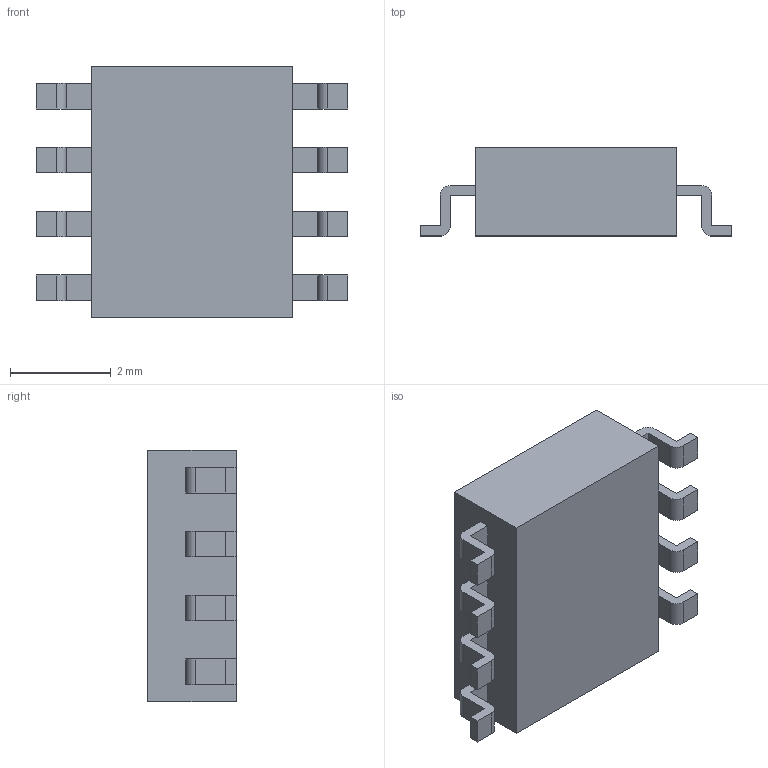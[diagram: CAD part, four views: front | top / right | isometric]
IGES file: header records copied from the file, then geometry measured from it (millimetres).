
Start section:  PTC IGES file: soic-8_prt.igs
Global section: file name: soic-8_prt.igs; native system: Pro/ENGINEER by Parametric Technology Corporation; preprocessor: 2000030; author: ECaille; organization: Unknown; date: 000803.092136; units: millimetre
Bounding box: 6.2 x 1.75 x 5 mm (x, y, z)
Surface area: 92.1 mm2 (no closed solid volume)
Topology: 0 solids, 0 shells, 94 faces, 840 edges, 1176 vertices
Faces by surface type: bspline 78, revolution 16
